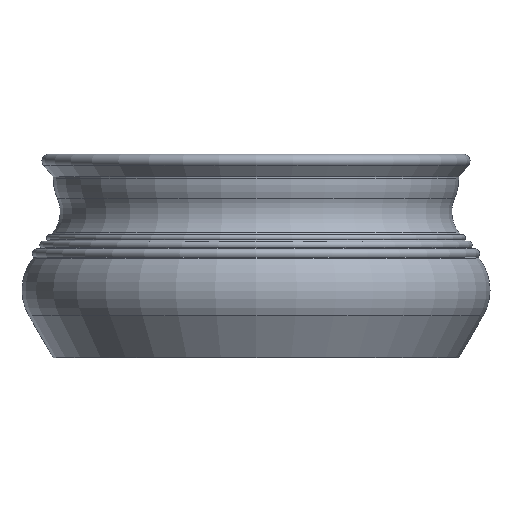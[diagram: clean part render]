
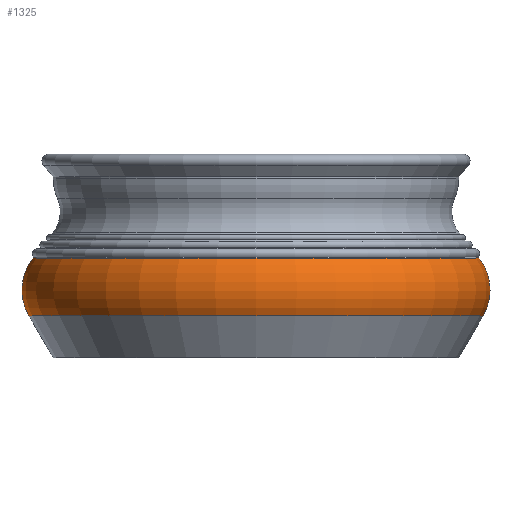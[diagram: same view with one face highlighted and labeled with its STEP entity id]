
A CAD part, front view. The second image highlights one B-rep face of the part: STEP entity #1325.
In plain terms, the highlighted toroidal (fillet/blend) face has major radius 134.261 mm and minor radius 38.099 mm.
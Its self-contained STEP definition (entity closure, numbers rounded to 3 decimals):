
#22=TOROIDAL_SURFACE('',#1505,134.261,38.099);
#166=FACE_OUTER_BOUND('',#284,.T.);
#284=EDGE_LOOP('',(#1208,#1209,#1210,#1211));
#526=CIRCLE('',#1467,167.243);
#549=CIRCLE('',#1506,164.249);
#550=CIRCLE('',#1507,38.099);
#653=VERTEX_POINT('',#2240);
#669=VERTEX_POINT('',#2303);
#818=EDGE_CURVE('',#653,#653,#526,.T.);
#849=EDGE_CURVE('',#669,#669,#549,.T.);
#850=EDGE_CURVE('',#669,#653,#550,.T.);
#1208=ORIENTED_EDGE('',*,*,#849,.F.);
#1209=ORIENTED_EDGE('',*,*,#850,.T.);
#1210=ORIENTED_EDGE('',*,*,#818,.T.);
#1211=ORIENTED_EDGE('',*,*,#850,.F.);
#1325=ADVANCED_FACE('',(#166),#22,.T.);
#1467=AXIS2_PLACEMENT_3D('',#2241,#1837,#1838);
#1505=AXIS2_PLACEMENT_3D('',#2302,#1921,#1922);
#1506=AXIS2_PLACEMENT_3D('',#2304,#1923,#1924);
#1507=AXIS2_PLACEMENT_3D('',#2305,#1925,#1926);
#1837=DIRECTION('center_axis',(0.,0.,1.));
#1838=DIRECTION('ref_axis',(1.,0.,0.));
#1921=DIRECTION('center_axis',(0.,0.,1.));
#1922=DIRECTION('ref_axis',(1.,0.,0.));
#1923=DIRECTION('center_axis',(0.,0.,1.));
#1924=DIRECTION('ref_axis',(1.,0.,0.));
#1925=DIRECTION('center_axis',(0.,-1.,0.));
#1926=DIRECTION('ref_axis',(-1.,0.,0.));
#2240=CARTESIAN_POINT('',(-167.243,0.,30.929));
#2241=CARTESIAN_POINT('Origin',(0.,0.,30.929));
#2302=CARTESIAN_POINT('Origin',(0.,0.,50.));
#2303=CARTESIAN_POINT('',(-164.249,0.,73.5));
#2304=CARTESIAN_POINT('Origin',(0.,0.,73.5));
#2305=CARTESIAN_POINT('Origin',(-134.261,0.,
50.));
